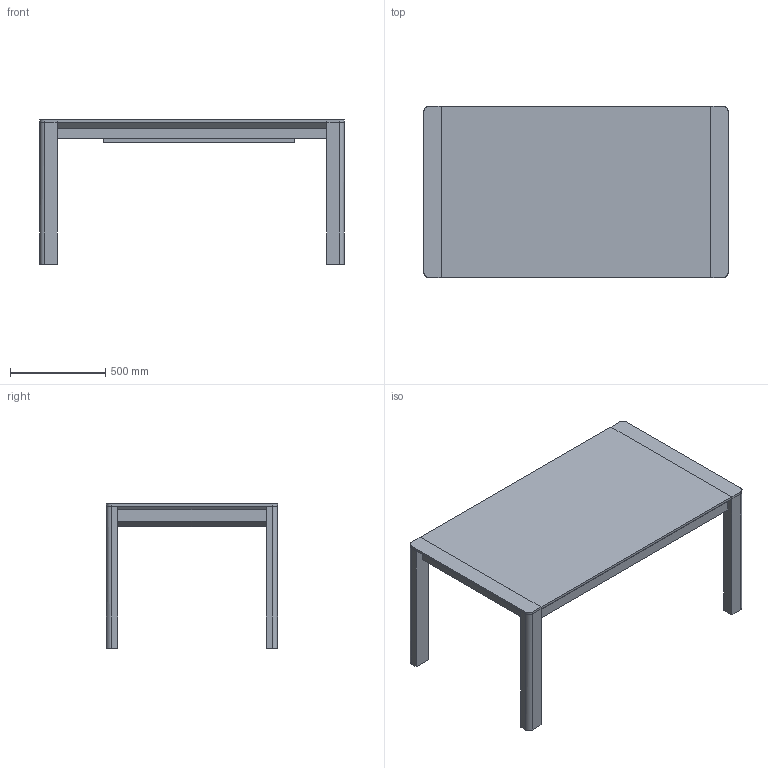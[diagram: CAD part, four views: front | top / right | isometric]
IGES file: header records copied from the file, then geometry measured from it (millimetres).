
Global section: file name: M:\STUDIO polstrin\BA _Datab; native system: Rhinoceros ( May 22 2017 ); preprocessor: Trout Lake IGES 012 May 22 2017; date: 180702.083701; units: millimetre
Bounding box: 1600 x 900 x 760 mm (x, y, z)
Surface area: 6621667.3 mm2 (no closed solid volume)
Topology: 0 solids, 0 shells, 84 faces, 751 edges, 886 vertices
Faces by surface type: bspline 84
